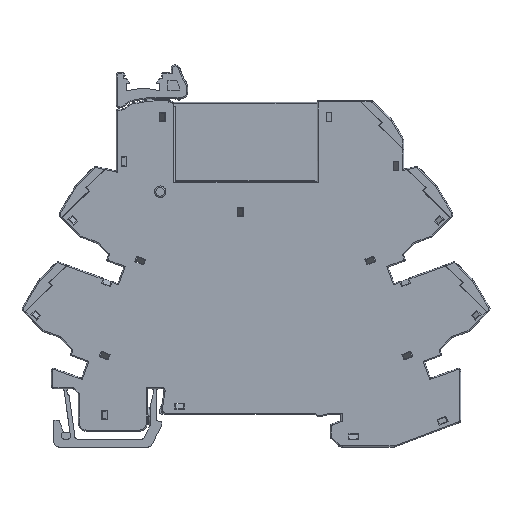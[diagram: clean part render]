
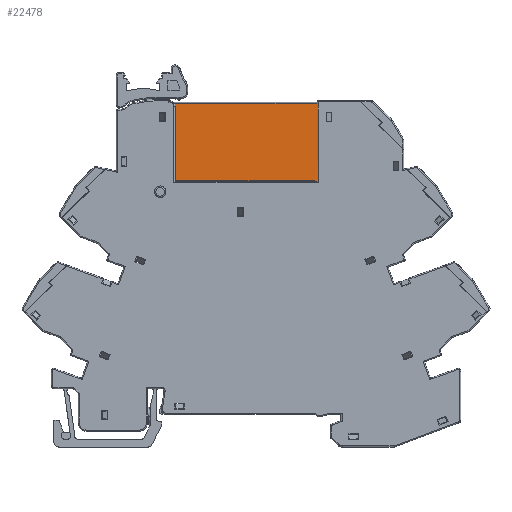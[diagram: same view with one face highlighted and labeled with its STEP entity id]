
A CAD part, top view. The second image highlights one B-rep face of the part: STEP entity #22478.
In plain terms, the highlighted planar face has unit normal (0, 0, 1).
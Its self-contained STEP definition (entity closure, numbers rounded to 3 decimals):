
#151 = ORIENTED_EDGE ( 'NONE', *, *, #30557, .T. ) ;
#418 = EDGE_CURVE ( 'NONE', #57428, #22067, #41143, .T. ) ;
#662 = CARTESIAN_POINT ( 'NONE',  ( 13.004, 29.268, 5.613 ) ) ;
#1034 = VERTEX_POINT ( 'NONE', #29004 ) ;
#1114 = EDGE_CURVE ( 'NONE', #28571, #45962, #53143, .T. ) ;
#2241 = ORIENTED_EDGE ( 'NONE', *, *, #1114, .T. ) ;
#2602 = VECTOR ( 'NONE', #25445, 1000. ) ;
#2798 = ORIENTED_EDGE ( 'NONE', *, *, #39142, .T. ) ;
#2914 = VERTEX_POINT ( 'NONE', #29461 ) ;
#3044 = CARTESIAN_POINT ( 'NONE',  ( 13.854, 43.518, 5.613 ) ) ;
#4517 = CARTESIAN_POINT ( 'NONE',  ( -12.896, 29.268, 5.613 ) ) ;
#5675 = CARTESIAN_POINT ( 'NONE',  ( -13.396, 29.118, 5.613 ) ) ;
#6654 = DIRECTION ( 'NONE',  ( 0., 0., 1. ) ) ;
#7088 = LINE ( 'NONE', #5675, #29412 ) ;
#7349 = VECTOR ( 'NONE', #23977, 1000. ) ;
#7972 = CARTESIAN_POINT ( 'NONE',  ( -13.396, 29.268, 5.613 ) ) ;
#8132 = VERTEX_POINT ( 'NONE', #3044 ) ;
#10775 = ORIENTED_EDGE ( 'NONE', *, *, #54459, .T. ) ;
#11631 = VECTOR ( 'NONE', #48468, 1000. ) ;
#12716 = VECTOR ( 'NONE', #42692, 1000. ) ;
#13190 = CIRCLE ( 'NONE', #16673, 0.35 ) ;
#14090 = CARTESIAN_POINT ( 'NONE',  ( -13.746, 43.518, 5.613 ) ) ;
#14384 = LINE ( 'NONE', #28726, #49256 ) ;
#15030 = LINE ( 'NONE', #33162, #52940 ) ;
#15465 = DIRECTION ( 'NONE',  ( 0., 1., 0. ) ) ;
#15470 = DIRECTION ( 'NONE',  ( 0., 0., 1. ) ) ;
#15552 = ORIENTED_EDGE ( 'NONE', *, *, #44756, .T. ) ;
#15650 = CARTESIAN_POINT ( 'NONE',  ( -13.396, 29.268, 5.613 ) ) ;
#16467 = AXIS2_PLACEMENT_3D ( 'NONE', #54074, #25649, #58811 ) ;
#16673 = AXIS2_PLACEMENT_3D ( 'NONE', #43893, #15470, #48682 ) ;
#18193 = EDGE_CURVE ( 'NONE', #2914, #8132, #47986, .T. ) ;
#18491 = LINE ( 'NONE', #57166, #7349 ) ;
#19835 = CARTESIAN_POINT ( 'NONE',  ( 13.004, 29.118, 5.613 ) ) ;
#22067 = VERTEX_POINT ( 'NONE', #662 ) ;
#22478 = ADVANCED_FACE ( 'NONE', ( #52954 ), #58738, .T. ) ;
#23053 = VERTEX_POINT ( 'NONE', #58674 ) ;
#23512 = ORIENTED_EDGE ( 'NONE', *, *, #34804, .T. ) ;
#23977 = DIRECTION ( 'NONE',  ( 0., 1., 0. ) ) ;
#24091 = CARTESIAN_POINT ( 'NONE',  ( -12.896, 29.268, 5.613 ) ) ;
#25445 = DIRECTION ( 'NONE',  ( 0., -1., 0. ) ) ;
#25578 = CARTESIAN_POINT ( 'NONE',  ( 13.504, 43.518, 5.613 ) ) ;
#25649 = DIRECTION ( 'NONE',  ( 0., 0., 1. ) ) ;
#25863 = AXIS2_PLACEMENT_3D ( 'NONE', #25578, #6654, #39853 ) ;
#26100 = VECTOR ( 'NONE', #48994, 1000. ) ;
#26433 = VERTEX_POINT ( 'NONE', #53116 ) ;
#26598 = VERTEX_POINT ( 'NONE', #40196 ) ;
#26852 = LINE ( 'NONE', #37981, #12716 ) ;
#26995 = EDGE_CURVE ( 'NONE', #42488, #1034, #34048, .T. ) ;
#27056 = VECTOR ( 'NONE', #57282, 1000. ) ;
#27330 = EDGE_LOOP ( 'NONE', ( #23512, #49181, #39721, #28698, #10775, #2798, #151, #2241, #15552, #43645, #58393, #50266, #33023, #51661 ) ) ;
#28571 = VERTEX_POINT ( 'NONE', #7972 ) ;
#28698 = ORIENTED_EDGE ( 'NONE', *, *, #40722, .T. ) ;
#28726 = CARTESIAN_POINT ( 'NONE',  ( -13.746, 43.518, 5.613 ) ) ;
#29004 = CARTESIAN_POINT ( 'NONE',  ( 13.504, 29.118, 5.613 ) ) ;
#29412 = VECTOR ( 'NONE', #48214, 1000. ) ;
#29461 = CARTESIAN_POINT ( 'NONE',  ( 13.854, 29.268, 5.613 ) ) ;
#30557 = EDGE_CURVE ( 'NONE', #41108, #28571, #15030, .T. ) ;
#32067 = LINE ( 'NONE', #38783, #55805 ) ;
#33023 = ORIENTED_EDGE ( 'NONE', *, *, #26995, .T. ) ;
#33162 = CARTESIAN_POINT ( 'NONE',  ( -13.896, 29.268, 5.613 ) ) ;
#33528 = DIRECTION ( 'NONE',  ( 0., -1., 0. ) ) ;
#33549 = EDGE_CURVE ( 'NONE', #35332, #57428, #18491, .T. ) ;
#34048 = LINE ( 'NONE', #19835, #59211 ) ;
#34804 = EDGE_CURVE ( 'NONE', #26598, #2914, #49489, .T. ) ;
#35332 = VERTEX_POINT ( 'NONE', #50034 ) ;
#37981 = CARTESIAN_POINT ( 'NONE',  ( 13.504, 29.118, 5.613 ) ) ;
#38783 = CARTESIAN_POINT ( 'NONE',  ( 13.004, 29.268, 5.613 ) ) ;
#39142 = EDGE_CURVE ( 'NONE', #43499, #41108, #14384, .T. ) ;
#39553 = CARTESIAN_POINT ( 'NONE',  ( -13.396, 29.118, 5.613 ) ) ;
#39721 = ORIENTED_EDGE ( 'NONE', *, *, #50409, .T. ) ;
#39853 = DIRECTION ( 'NONE',  ( 1., 0., 0. ) ) ;
#40196 = CARTESIAN_POINT ( 'NONE',  ( 13.504, 29.268, 5.613 ) ) ;
#40722 = EDGE_CURVE ( 'NONE', #23053, #26433, #51326, .T. ) ;
#41108 = VERTEX_POINT ( 'NONE', #53016 ) ;
#41143 = LINE ( 'NONE', #24091, #27056 ) ;
#42488 = VERTEX_POINT ( 'NONE', #55148 ) ;
#42692 = DIRECTION ( 'NONE',  ( 0., 1., 0. ) ) ;
#43499 = VERTEX_POINT ( 'NONE', #14090 ) ;
#43504 = DIRECTION ( 'NONE',  ( 0., -1., 0. ) ) ;
#43645 = ORIENTED_EDGE ( 'NONE', *, *, #33549, .T. ) ;
#43682 = CARTESIAN_POINT ( 'NONE',  ( 13.504, 29.268, 5.613 ) ) ;
#43887 = CARTESIAN_POINT ( 'NONE',  ( 13.854, 43.518, 5.613 ) ) ;
#43893 = CARTESIAN_POINT ( 'NONE',  ( -13.396, 43.518, 5.613 ) ) ;
#44756 = EDGE_CURVE ( 'NONE', #45962, #35332, #7088, .T. ) ;
#45962 = VERTEX_POINT ( 'NONE', #39553 ) ;
#46480 = VECTOR ( 'NONE', #15465, 1000. ) ;
#47986 = LINE ( 'NONE', #43887, #46480 ) ;
#48214 = DIRECTION ( 'NONE',  ( 1., 0., 0. ) ) ;
#48468 = DIRECTION ( 'NONE',  ( 1., 0., 0. ) ) ;
#48682 = DIRECTION ( 'NONE',  ( 1., 0., 0. ) ) ;
#48994 = DIRECTION ( 'NONE',  ( -1., 0., 0. ) ) ;
#49181 = ORIENTED_EDGE ( 'NONE', *, *, #18193, .T. ) ;
#49256 = VECTOR ( 'NONE', #33528, 1000. ) ;
#49489 = LINE ( 'NONE', #43682, #11631 ) ;
#49788 = EDGE_CURVE ( 'NONE', #1034, #26598, #26852, .T. ) ;
#49899 = EDGE_CURVE ( 'NONE', #22067, #42488, #32067, .T. ) ;
#50034 = CARTESIAN_POINT ( 'NONE',  ( -12.896, 29.118, 5.613 ) ) ;
#50266 = ORIENTED_EDGE ( 'NONE', *, *, #49899, .T. ) ;
#50409 = EDGE_CURVE ( 'NONE', #8132, #23053, #52121, .T. ) ;
#51326 = LINE ( 'NONE', #58365, #26100 ) ;
#51661 = ORIENTED_EDGE ( 'NONE', *, *, #49788, .T. ) ;
#52121 = CIRCLE ( 'NONE', #16467, 0.35 ) ;
#52940 = VECTOR ( 'NONE', #61526, 1000. ) ;
#52954 = FACE_OUTER_BOUND ( 'NONE', #27330, .T. ) ;
#53016 = CARTESIAN_POINT ( 'NONE',  ( -13.746, 29.268, 5.613 ) ) ;
#53116 = CARTESIAN_POINT ( 'NONE',  ( -13.396, 43.868, 5.613 ) ) ;
#53143 = LINE ( 'NONE', #15650, #2602 ) ;
#54074 = CARTESIAN_POINT ( 'NONE',  ( 13.504, 43.518, 5.613 ) ) ;
#54459 = EDGE_CURVE ( 'NONE', #26433, #43499, #13190, .T. ) ;
#55148 = CARTESIAN_POINT ( 'NONE',  ( 13.004, 29.118, 5.613 ) ) ;
#55805 = VECTOR ( 'NONE', #43504, 1000. ) ;
#57166 = CARTESIAN_POINT ( 'NONE',  ( -12.896, 29.118, 5.613 ) ) ;
#57282 = DIRECTION ( 'NONE',  ( 1., 0., 0. ) ) ;
#57428 = VERTEX_POINT ( 'NONE', #4517 ) ;
#57813 = DIRECTION ( 'NONE',  ( 1., 0., 0. ) ) ;
#58365 = CARTESIAN_POINT ( 'NONE',  ( -13.396, 43.868, 5.613 ) ) ;
#58393 = ORIENTED_EDGE ( 'NONE', *, *, #418, .T. ) ;
#58674 = CARTESIAN_POINT ( 'NONE',  ( 13.504, 43.868, 5.613 ) ) ;
#58738 = PLANE ( 'NONE',  #25863 ) ;
#58811 = DIRECTION ( 'NONE',  ( 1., 0., 0. ) ) ;
#59211 = VECTOR ( 'NONE', #57813, 1000. ) ;
#61526 = DIRECTION ( 'NONE',  ( 1., 0., 0. ) ) ;
